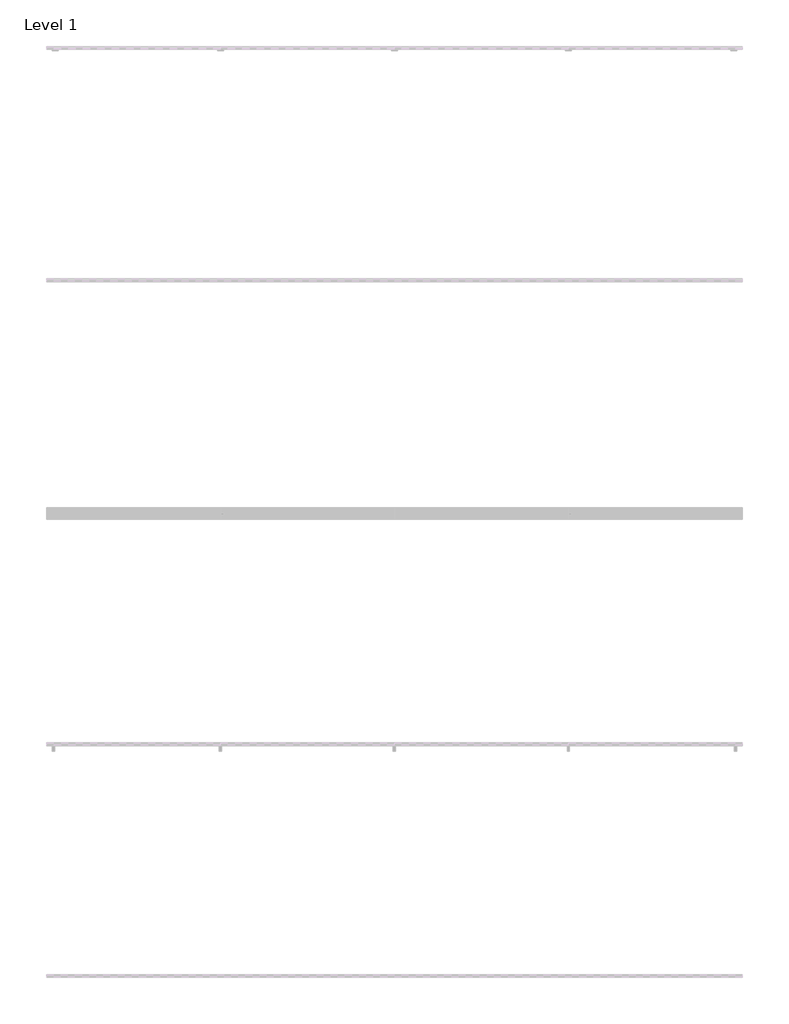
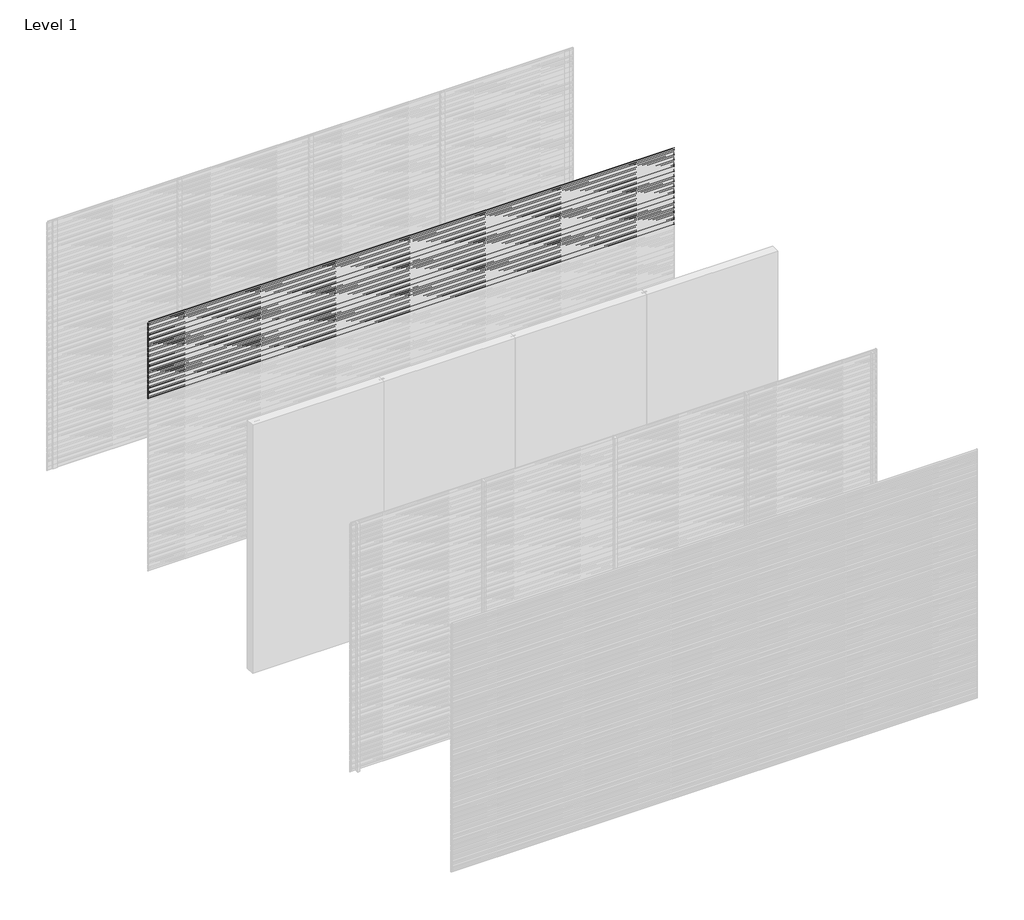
# One storey, part 24 of 31: 99 proxies.
"""IFC4 building model written with IfcOpenShell, lengths in millimetres."""

from ifc_helpers import new_model, si_unit, frame, origin, place, context, project, spatial, polyline, outline, extrude, element, save

model = new_model("IFC4")

# Units and contexts
model_context = context("Model", 3, world=origin())
ifc_project = project(units=[si_unit("LENGTHUNIT", "METRE", prefix="MILLI")], contexts=[model_context])

# Site, building, storey
site = spatial("IfcSite", under=ifc_project)
building = spatial("IfcBuilding", under=site)
storey = spatial("IfcBuildingStorey", under=building, Name="Level 1", Elevation=0.0)

# Proxies
placement = place(None, origin())
element("IfcBuildingElementProxy", 1, Name="Wall Sweeps", at=placement, inside=storey, context=model_context, shape_type="SweptSolid", body=[
    extrude(outline(polyline([(-1995.0, 3000.0), (-1995.0, 2988.942893), (-1976.0, 2973.0), (-1976.0, 2960.0), (-1997.0, 2977.6210923), (-1997.0, 3000.0), (-1995.0, 3000.0)])), frame((0.0, 0.0, 0.0), z_axis=(1.0, 0.0, 0.0), x_axis=(0.0, 1.0, 0.0)), (0.0, 0.0, 1.0), 6000.0),
])
element("IfcBuildingElementProxy", 2, Name="Wall Sweeps", at=placement, inside=storey, context=model_context, shape_type="SweptSolid", body=[
    extrude(outline(polyline([(-1995.0, 2980.0), (-1995.0, 2968.942893), (-1976.0, 2953.0), (-1976.0, 2940.0), (-1997.0, 2957.6210923), (-1997.0, 2980.0), (-1995.0, 2980.0)])), frame((0.0, 0.0, 0.0), z_axis=(1.0, 0.0, 0.0), x_axis=(0.0, 1.0, 0.0)), (0.0, 0.0, 1.0), 6000.0),
])
element("IfcBuildingElementProxy", 3, Name="Wall Sweeps", at=placement, inside=storey, context=model_context, shape_type="SweptSolid", body=[
    extrude(outline(polyline([(-1995.0, 2960.0), (-1995.0, 2948.942893), (-1976.0, 2933.0), (-1976.0, 2920.0), (-1997.0, 2937.6210923), (-1997.0, 2960.0), (-1995.0, 2960.0)])), frame((0.0, 0.0, 0.0), z_axis=(1.0, 0.0, 0.0), x_axis=(0.0, 1.0, 0.0)), (0.0, 0.0, 1.0), 6000.0),
])
element("IfcBuildingElementProxy", 4, Name="Wall Sweeps", at=placement, inside=storey, context=model_context, shape_type="SweptSolid", body=[
    extrude(outline(polyline([(-1995.0, 2940.0), (-1995.0, 2928.942893), (-1976.0, 2913.0), (-1976.0, 2900.0), (-1997.0, 2917.6210923), (-1997.0, 2940.0), (-1995.0, 2940.0)])), frame((0.0, 0.0, 0.0), z_axis=(1.0, 0.0, 0.0), x_axis=(0.0, 1.0, 0.0)), (0.0, 0.0, 1.0), 6000.0),
])
element("IfcBuildingElementProxy", 5, Name="Wall Sweeps", at=placement, inside=storey, context=model_context, shape_type="SweptSolid", body=[
    extrude(outline(polyline([(-1995.0, 2920.0), (-1995.0, 2908.942893), (-1976.0, 2893.0), (-1976.0, 2880.0), (-1997.0, 2897.6210923), (-1997.0, 2920.0), (-1995.0, 2920.0)])), frame((0.0, 0.0, 0.0), z_axis=(1.0, 0.0, 0.0), x_axis=(0.0, 1.0, 0.0)), (0.0, 0.0, 1.0), 6000.0),
])
element("IfcBuildingElementProxy", 6, Name="Wall Sweeps", at=placement, inside=storey, context=model_context, shape_type="SweptSolid", body=[
    extrude(outline(polyline([(-1995.0, 2900.0), (-1995.0, 2888.942893), (-1976.0, 2873.0), (-1976.0, 2860.0), (-1997.0, 2877.6210923), (-1997.0, 2900.0), (-1995.0, 2900.0)])), frame((0.0, 0.0, 0.0), z_axis=(1.0, 0.0, 0.0), x_axis=(0.0, 1.0, 0.0)), (0.0, 0.0, 1.0), 6000.0),
])
element("IfcBuildingElementProxy", 7, Name="Wall Sweeps", at=placement, inside=storey, context=model_context, shape_type="SweptSolid", body=[
    extrude(outline(polyline([(-1995.0, 2880.0), (-1995.0, 2868.942893), (-1976.0, 2853.0), (-1976.0, 2840.0), (-1997.0, 2857.6210923), (-1997.0, 2880.0), (-1995.0, 2880.0)])), frame((0.0, 0.0, 0.0), z_axis=(1.0, 0.0, 0.0), x_axis=(0.0, 1.0, 0.0)), (0.0, 0.0, 1.0), 6000.0),
])
element("IfcBuildingElementProxy", 8, Name="Wall Sweeps", at=placement, inside=storey, context=model_context, shape_type="SweptSolid", body=[
    extrude(outline(polyline([(-1995.0, 2860.0), (-1995.0, 2848.942893), (-1976.0, 2833.0), (-1976.0, 2820.0), (-1997.0, 2837.6210923), (-1997.0, 2860.0), (-1995.0, 2860.0)])), frame((0.0, 0.0, 0.0), z_axis=(1.0, 0.0, 0.0), x_axis=(0.0, 1.0, 0.0)), (0.0, 0.0, 1.0), 6000.0),
])
element("IfcBuildingElementProxy", 9, Name="Wall Sweeps", at=placement, inside=storey, context=model_context, shape_type="SweptSolid", body=[
    extrude(outline(polyline([(-1995.0, 2840.0), (-1995.0, 2828.942893), (-1976.0, 2813.0), (-1976.0, 2800.0), (-1997.0, 2817.6210923), (-1997.0, 2840.0), (-1995.0, 2840.0)])), frame((0.0, 0.0, 0.0), z_axis=(1.0, 0.0, 0.0), x_axis=(0.0, 1.0, 0.0)), (0.0, 0.0, 1.0), 6000.0),
])
element("IfcBuildingElementProxy", 10, Name="Wall Sweeps", at=placement, inside=storey, context=model_context, shape_type="SweptSolid", body=[
    extrude(outline(polyline([(-1995.0, 2820.0), (-1995.0, 2808.942893), (-1976.0, 2793.0), (-1976.0, 2780.0), (-1997.0, 2797.6210923), (-1997.0, 2820.0), (-1995.0, 2820.0)])), frame((0.0, 0.0, 0.0), z_axis=(1.0, 0.0, 0.0), x_axis=(0.0, 1.0, 0.0)), (0.0, 0.0, 1.0), 6000.0),
])
element("IfcBuildingElementProxy", 11, Name="Wall Sweeps", at=placement, inside=storey, context=model_context, shape_type="SweptSolid", body=[
    extrude(outline(polyline([(-1995.0, 2800.0), (-1995.0, 2788.942893), (-1976.0, 2773.0), (-1976.0, 2760.0), (-1997.0, 2777.6210923), (-1997.0, 2800.0), (-1995.0, 2800.0)])), frame((0.0, 0.0, 0.0), z_axis=(1.0, 0.0, 0.0), x_axis=(0.0, 1.0, 0.0)), (0.0, 0.0, 1.0), 6000.0),
])
element("IfcBuildingElementProxy", 12, Name="Wall Sweeps", at=placement, inside=storey, context=model_context, shape_type="SweptSolid", body=[
    extrude(outline(polyline([(-1995.0, 2780.0), (-1995.0, 2768.942893), (-1976.0, 2753.0), (-1976.0, 2740.0), (-1997.0, 2757.6210923), (-1997.0, 2780.0), (-1995.0, 2780.0)])), frame((0.0, 0.0, 0.0), z_axis=(1.0, 0.0, 0.0), x_axis=(0.0, 1.0, 0.0)), (0.0, 0.0, 1.0), 6000.0),
])
element("IfcBuildingElementProxy", 13, Name="Wall Sweeps", at=placement, inside=storey, context=model_context, shape_type="SweptSolid", body=[
    extrude(outline(polyline([(-1995.0, 2760.0), (-1995.0, 2748.942893), (-1976.0, 2733.0), (-1976.0, 2720.0), (-1997.0, 2737.6210923), (-1997.0, 2760.0), (-1995.0, 2760.0)])), frame((0.0, 0.0, 0.0), z_axis=(1.0, 0.0, 0.0), x_axis=(0.0, 1.0, 0.0)), (0.0, 0.0, 1.0), 6000.0),
])
element("IfcBuildingElementProxy", 14, Name="Wall Sweeps", at=placement, inside=storey, context=model_context, shape_type="SweptSolid", body=[
    extrude(outline(polyline([(-1995.0, 2740.0), (-1995.0, 2728.942893), (-1976.0, 2713.0), (-1976.0, 2700.0), (-1997.0, 2717.6210923), (-1997.0, 2740.0), (-1995.0, 2740.0)])), frame((0.0, 0.0, 0.0), z_axis=(1.0, 0.0, 0.0), x_axis=(0.0, 1.0, 0.0)), (0.0, 0.0, 1.0), 6000.0),
])
element("IfcBuildingElementProxy", 15, Name="Wall Sweeps", at=placement, inside=storey, context=model_context, shape_type="SweptSolid", body=[
    extrude(outline(polyline([(-1995.0, 2720.0), (-1995.0, 2708.942893), (-1976.0, 2693.0), (-1976.0, 2680.0), (-1997.0, 2697.6210923), (-1997.0, 2720.0), (-1995.0, 2720.0)])), frame((0.0, 0.0, 0.0), z_axis=(1.0, 0.0, 0.0), x_axis=(0.0, 1.0, 0.0)), (0.0, 0.0, 1.0), 6000.0),
])
element("IfcBuildingElementProxy", 16, Name="Wall Sweeps", at=placement, inside=storey, context=model_context, shape_type="SweptSolid", body=[
    extrude(outline(polyline([(-1995.0, 2700.0), (-1995.0, 2688.942893), (-1976.0, 2673.0), (-1976.0, 2660.0), (-1997.0, 2677.6210923), (-1997.0, 2700.0), (-1995.0, 2700.0)])), frame((0.0, 0.0, 0.0), z_axis=(1.0, 0.0, 0.0), x_axis=(0.0, 1.0, 0.0)), (0.0, 0.0, 1.0), 6000.0),
])
element("IfcBuildingElementProxy", 17, Name="Wall Sweeps", at=placement, inside=storey, context=model_context, shape_type="SweptSolid", body=[
    extrude(outline(polyline([(-1995.0, 2680.0), (-1995.0, 2668.942893), (-1976.0, 2653.0), (-1976.0, 2640.0), (-1997.0, 2657.6210923), (-1997.0, 2680.0), (-1995.0, 2680.0)])), frame((0.0, 0.0, 0.0), z_axis=(1.0, 0.0, 0.0), x_axis=(0.0, 1.0, 0.0)), (0.0, 0.0, 1.0), 6000.0),
])
element("IfcBuildingElementProxy", 18, Name="Wall Sweeps", at=placement, inside=storey, context=model_context, shape_type="SweptSolid", body=[
    extrude(outline(polyline([(-1995.0, 2660.0), (-1995.0, 2648.942893), (-1976.0, 2633.0), (-1976.0, 2620.0), (-1997.0, 2637.6210923), (-1997.0, 2660.0), (-1995.0, 2660.0)])), frame((0.0, 0.0, 0.0), z_axis=(1.0, 0.0, 0.0), x_axis=(0.0, 1.0, 0.0)), (0.0, 0.0, 1.0), 6000.0),
])
element("IfcBuildingElementProxy", 19, Name="Wall Sweeps", at=placement, inside=storey, context=model_context, shape_type="SweptSolid", body=[
    extrude(outline(polyline([(-1995.0, 2640.0), (-1995.0, 2628.942893), (-1976.0, 2613.0), (-1976.0, 2600.0), (-1997.0, 2617.6210923), (-1997.0, 2640.0), (-1995.0, 2640.0)])), frame((0.0, 0.0, 0.0), z_axis=(1.0, 0.0, 0.0), x_axis=(0.0, 1.0, 0.0)), (0.0, 0.0, 1.0), 6000.0),
])
element("IfcBuildingElementProxy", 20, Name="Wall Sweeps", at=placement, inside=storey, context=model_context, shape_type="SweptSolid", body=[
    extrude(outline(polyline([(-1995.0, 2620.0), (-1995.0, 2608.942893), (-1976.0, 2593.0), (-1976.0, 2580.0), (-1997.0, 2597.6210923), (-1997.0, 2620.0), (-1995.0, 2620.0)])), frame((0.0, 0.0, 0.0), z_axis=(1.0, 0.0, 0.0), x_axis=(0.0, 1.0, 0.0)), (0.0, 0.0, 1.0), 6000.0),
])
element("IfcBuildingElementProxy", 21, Name="Wall Sweeps", at=placement, inside=storey, context=model_context, shape_type="SweptSolid", body=[
    extrude(outline(polyline([(-1995.0, 2600.0), (-1995.0, 2588.942893), (-1976.0, 2573.0), (-1976.0, 2560.0), (-1997.0, 2577.6210923), (-1997.0, 2600.0), (-1995.0, 2600.0)])), frame((0.0, 0.0, 0.0), z_axis=(1.0, 0.0, 0.0), x_axis=(0.0, 1.0, 0.0)), (0.0, 0.0, 1.0), 6000.0),
])
element("IfcBuildingElementProxy", 22, Name="Wall Sweeps", at=placement, inside=storey, context=model_context, shape_type="SweptSolid", body=[
    extrude(outline(polyline([(-1995.0, 2580.0), (-1995.0, 2568.942893), (-1976.0, 2553.0), (-1976.0, 2540.0), (-1997.0, 2557.6210923), (-1997.0, 2580.0), (-1995.0, 2580.0)])), frame((0.0, 0.0, 0.0), z_axis=(1.0, 0.0, 0.0), x_axis=(0.0, 1.0, 0.0)), (0.0, 0.0, 1.0), 6000.0),
])
element("IfcBuildingElementProxy", 23, Name="Wall Sweeps", at=placement, inside=storey, context=model_context, shape_type="SweptSolid", body=[
    extrude(outline(polyline([(-1995.0, 2560.0), (-1995.0, 2548.942893), (-1976.0, 2533.0), (-1976.0, 2520.0), (-1997.0, 2537.6210923), (-1997.0, 2560.0), (-1995.0, 2560.0)])), frame((0.0, 0.0, 0.0), z_axis=(1.0, 0.0, 0.0), x_axis=(0.0, 1.0, 0.0)), (0.0, 0.0, 1.0), 6000.0),
])
element("IfcBuildingElementProxy", 24, Name="Wall Sweeps", at=placement, inside=storey, context=model_context, shape_type="SweptSolid", body=[
    extrude(outline(polyline([(-1995.0, 2540.0), (-1995.0, 2528.942893), (-1976.0, 2513.0), (-1976.0, 2500.0), (-1997.0, 2517.6210923), (-1997.0, 2540.0), (-1995.0, 2540.0)])), frame((0.0, 0.0, 0.0), z_axis=(1.0, 0.0, 0.0), x_axis=(0.0, 1.0, 0.0)), (0.0, 0.0, 1.0), 6000.0),
])
element("IfcBuildingElementProxy", 25, Name="Wall Sweeps", at=placement, inside=storey, context=model_context, shape_type="SweptSolid", body=[
    extrude(outline(polyline([(-1995.0, 2520.0), (-1995.0, 2508.942893), (-1976.0, 2493.0), (-1976.0, 2480.0), (-1997.0, 2497.6210923), (-1997.0, 2520.0), (-1995.0, 2520.0)])), frame((0.0, 0.0, 0.0), z_axis=(1.0, 0.0, 0.0), x_axis=(0.0, 1.0, 0.0)), (0.0, 0.0, 1.0), 6000.0),
])
element("IfcBuildingElementProxy", 26, Name="Wall Sweeps", at=placement, inside=storey, context=model_context, shape_type="SweptSolid", body=[
    extrude(outline(polyline([(-1995.0, 2500.0), (-1995.0, 2488.942893), (-1976.0, 2473.0), (-1976.0, 2460.0), (-1997.0, 2477.6210923), (-1997.0, 2500.0), (-1995.0, 2500.0)])), frame((0.0, 0.0, 0.0), z_axis=(1.0, 0.0, 0.0), x_axis=(0.0, 1.0, 0.0)), (0.0, 0.0, 1.0), 6000.0),
])
element("IfcBuildingElementProxy", 27, Name="Wall Sweeps", at=placement, inside=storey, context=model_context, shape_type="SweptSolid", body=[
    extrude(outline(polyline([(-1995.0, 2480.0), (-1995.0, 2468.942893), (-1976.0, 2453.0), (-1976.0, 2440.0), (-1997.0, 2457.6210923), (-1997.0, 2480.0), (-1995.0, 2480.0)])), frame((0.0, 0.0, 0.0), z_axis=(1.0, 0.0, 0.0), x_axis=(0.0, 1.0, 0.0)), (0.0, 0.0, 1.0), 6000.0),
])
element("IfcBuildingElementProxy", 28, Name="Wall Sweeps", at=placement, inside=storey, context=model_context, shape_type="SweptSolid", body=[
    extrude(outline(polyline([(-1995.0, 2460.0), (-1995.0, 2448.942893), (-1976.0, 2433.0), (-1976.0, 2420.0), (-1997.0, 2437.6210923), (-1997.0, 2460.0), (-1995.0, 2460.0)])), frame((0.0, 0.0, 0.0), z_axis=(1.0, 0.0, 0.0), x_axis=(0.0, 1.0, 0.0)), (0.0, 0.0, 1.0), 6000.0),
])
element("IfcBuildingElementProxy", 29, Name="Wall Sweeps", at=placement, inside=storey, context=model_context, shape_type="SweptSolid", body=[
    extrude(outline(polyline([(-1995.0, 2440.0), (-1995.0, 2428.942893), (-1976.0, 2413.0), (-1976.0, 2400.0), (-1997.0, 2417.6210923), (-1997.0, 2440.0), (-1995.0, 2440.0)])), frame((0.0, 0.0, 0.0), z_axis=(1.0, 0.0, 0.0), x_axis=(0.0, 1.0, 0.0)), (0.0, 0.0, 1.0), 6000.0),
])
element("IfcBuildingElementProxy", 30, Name="Wall Sweeps", at=placement, inside=storey, context=model_context, shape_type="SweptSolid", body=[
    extrude(outline(polyline([(-1995.0, 2420.0), (-1995.0, 2408.942893), (-1976.0, 2393.0), (-1976.0, 2380.0), (-1997.0, 2397.6210923), (-1997.0, 2420.0), (-1995.0, 2420.0)])), frame((0.0, 0.0, 0.0), z_axis=(1.0, 0.0, 0.0), x_axis=(0.0, 1.0, 0.0)), (0.0, 0.0, 1.0), 6000.0),
])
element("IfcBuildingElementProxy", 31, Name="Wall Sweeps", at=placement, inside=storey, context=model_context, shape_type="SweptSolid", body=[
    extrude(outline(polyline([(-1995.0, 2400.0), (-1995.0, 2388.942893), (-1976.0, 2373.0), (-1976.0, 2360.0), (-1997.0, 2377.6210923), (-1997.0, 2400.0), (-1995.0, 2400.0)])), frame((0.0, 0.0, 0.0), z_axis=(1.0, 0.0, 0.0), x_axis=(0.0, 1.0, 0.0)), (0.0, 0.0, 1.0), 6000.0),
])
element("IfcBuildingElementProxy", 32, Name="Wall Sweeps", at=placement, inside=storey, context=model_context, shape_type="SweptSolid", body=[
    extrude(outline(polyline([(-1995.0, 2380.0), (-1995.0, 2368.942893), (-1976.0, 2353.0), (-1976.0, 2340.0), (-1997.0, 2357.6210923), (-1997.0, 2380.0), (-1995.0, 2380.0)])), frame((0.0, 0.0, 0.0), z_axis=(1.0, 0.0, 0.0), x_axis=(0.0, 1.0, 0.0)), (0.0, 0.0, 1.0), 6000.0),
])
element("IfcBuildingElementProxy", 33, Name="Wall Sweeps", at=placement, inside=storey, context=model_context, shape_type="SweptSolid", body=[
    extrude(outline(polyline([(-1995.0, 2360.0), (-1995.0, 2348.942893), (-1976.0, 2333.0), (-1976.0, 2320.0), (-1997.0, 2337.6210923), (-1997.0, 2360.0), (-1995.0, 2360.0)])), frame((0.0, 0.0, 0.0), z_axis=(1.0, 0.0, 0.0), x_axis=(0.0, 1.0, 0.0)), (0.0, 0.0, 1.0), 6000.0),
])
element("IfcBuildingElementProxy", 34, Name="Wall Sweeps", at=placement, inside=storey, context=model_context, shape_type="SweptSolid", body=[
    extrude(outline(polyline([(-1995.0, 2340.0), (-1995.0, 2328.942893), (-1976.0, 2313.0), (-1976.0, 2300.0), (-1997.0, 2317.6210923), (-1997.0, 2340.0), (-1995.0, 2340.0)])), frame((0.0, 0.0, 0.0), z_axis=(1.0, 0.0, 0.0), x_axis=(0.0, 1.0, 0.0)), (0.0, 0.0, 1.0), 6000.0),
])
element("IfcBuildingElementProxy", 35, Name="Wall Sweeps", at=placement, inside=storey, context=model_context, shape_type="SweptSolid", body=[
    extrude(outline(polyline([(-1995.0, 2320.0), (-1995.0, 2308.942893), (-1976.0, 2293.0), (-1976.0, 2280.0), (-1997.0, 2297.6210923), (-1997.0, 2320.0), (-1995.0, 2320.0)])), frame((0.0, 0.0, 0.0), z_axis=(1.0, 0.0, 0.0), x_axis=(0.0, 1.0, 0.0)), (0.0, 0.0, 1.0), 6000.0),
])
element("IfcBuildingElementProxy", 36, Name="Wall Sweeps", at=placement, inside=storey, context=model_context, shape_type="SweptSolid", body=[
    extrude(outline(polyline([(-1995.0, 2300.0), (-1995.0, 2288.942893), (-1976.0, 2273.0), (-1976.0, 2260.0), (-1997.0, 2277.6210923), (-1997.0, 2300.0), (-1995.0, 2300.0)])), frame((0.0, 0.0, 0.0), z_axis=(1.0, 0.0, 0.0), x_axis=(0.0, 1.0, 0.0)), (0.0, 0.0, 1.0), 6000.0),
])
element("IfcBuildingElementProxy", 37, Name="Wall Sweeps", at=placement, inside=storey, context=model_context, shape_type="SweptSolid", body=[
    extrude(outline(polyline([(-1995.0, 2280.0), (-1995.0, 2268.942893), (-1976.0, 2253.0), (-1976.0, 2240.0), (-1997.0, 2257.6210923), (-1997.0, 2280.0), (-1995.0, 2280.0)])), frame((0.0, 0.0, 0.0), z_axis=(1.0, 0.0, 0.0), x_axis=(0.0, 1.0, 0.0)), (0.0, 0.0, 1.0), 6000.0),
])
element("IfcBuildingElementProxy", 38, Name="Wall Sweeps", at=placement, inside=storey, context=model_context, shape_type="SweptSolid", body=[
    extrude(outline(polyline([(-1995.0, 2260.0), (-1995.0, 2248.942893), (-1976.0, 2233.0), (-1976.0, 2220.0), (-1997.0, 2237.6210923), (-1997.0, 2260.0), (-1995.0, 2260.0)])), frame((0.0, 0.0, 0.0), z_axis=(1.0, 0.0, 0.0), x_axis=(0.0, 1.0, 0.0)), (0.0, 0.0, 1.0), 6000.0),
])
element("IfcBuildingElementProxy", 39, Name="Wall Sweeps", at=placement, inside=storey, context=model_context, shape_type="SweptSolid", body=[
    extrude(outline(polyline([(-1995.0, 2240.0), (-1995.0, 2228.942893), (-1976.0, 2213.0), (-1976.0, 2200.0), (-1997.0, 2217.6210923), (-1997.0, 2240.0), (-1995.0, 2240.0)])), frame((0.0, 0.0, 0.0), z_axis=(1.0, 0.0, 0.0), x_axis=(0.0, 1.0, 0.0)), (0.0, 0.0, 1.0), 6000.0),
])
element("IfcBuildingElementProxy", 40, Name="Wall Sweeps", at=placement, inside=storey, context=model_context, shape_type="SweptSolid", body=[
    extrude(outline(polyline([(-1995.0, 2220.0), (-1995.0, 2208.942893), (-1976.0, 2193.0), (-1976.0, 2180.0), (-1997.0, 2197.6210923), (-1997.0, 2220.0), (-1995.0, 2220.0)])), frame((0.0, 0.0, 0.0), z_axis=(1.0, 0.0, 0.0), x_axis=(0.0, 1.0, 0.0)), (0.0, 0.0, 1.0), 6000.0),
])
element("IfcBuildingElementProxy", 41, Name="Wall Sweeps", at=placement, inside=storey, context=model_context, shape_type="SweptSolid", body=[
    extrude(outline(polyline([(-1995.0, 2200.0), (-1995.0, 2188.942893), (-1976.0, 2173.0), (-1976.0, 2160.0), (-1997.0, 2177.6210923), (-1997.0, 2200.0), (-1995.0, 2200.0)])), frame((0.0, 0.0, 0.0), z_axis=(1.0, 0.0, 0.0), x_axis=(0.0, 1.0, 0.0)), (0.0, 0.0, 1.0), 6000.0),
])
element("IfcBuildingElementProxy", 42, Name="Wall Sweeps", at=placement, inside=storey, context=model_context, shape_type="SweptSolid", body=[
    extrude(outline(polyline([(-1995.0, 2180.0), (-1995.0, 2168.942893), (-1976.0, 2153.0), (-1976.0, 2140.0), (-1997.0, 2157.6210923), (-1997.0, 2180.0), (-1995.0, 2180.0)])), frame((0.0, 0.0, 0.0), z_axis=(1.0, 0.0, 0.0), x_axis=(0.0, 1.0, 0.0)), (0.0, 0.0, 1.0), 6000.0),
])
element("IfcBuildingElementProxy", 43, Name="Wall Sweeps", at=placement, inside=storey, context=model_context, shape_type="SweptSolid", body=[
    extrude(outline(polyline([(-1995.0, 2160.0), (-1995.0, 2148.942893), (-1976.0, 2133.0), (-1976.0, 2120.0), (-1997.0, 2137.6210923), (-1997.0, 2160.0), (-1995.0, 2160.0)])), frame((0.0, 0.0, 0.0), z_axis=(1.0, 0.0, 0.0), x_axis=(0.0, 1.0, 0.0)), (0.0, 0.0, 1.0), 6000.0),
])
element("IfcBuildingElementProxy", 44, Name="Wall Sweeps", at=placement, inside=storey, context=model_context, shape_type="SweptSolid", body=[
    extrude(outline(polyline([(-1995.0, 2140.0), (-1995.0, 2128.942893), (-1976.0, 2113.0), (-1976.0, 2100.0), (-1997.0, 2117.6210923), (-1997.0, 2140.0), (-1995.0, 2140.0)])), frame((0.0, 0.0, 0.0), z_axis=(1.0, 0.0, 0.0), x_axis=(0.0, 1.0, 0.0)), (0.0, 0.0, 1.0), 6000.0),
])
element("IfcBuildingElementProxy", 45, Name="Wall Sweeps", at=placement, inside=storey, context=model_context, shape_type="SweptSolid", body=[
    extrude(outline(polyline([(-1995.0, 2120.0), (-1995.0, 2108.942893), (-1976.0, 2093.0), (-1976.0, 2080.0), (-1997.0, 2097.6210923), (-1997.0, 2120.0), (-1995.0, 2120.0)])), frame((0.0, 0.0, 0.0), z_axis=(1.0, 0.0, 0.0), x_axis=(0.0, 1.0, 0.0)), (0.0, 0.0, 1.0), 6000.0),
])
element("IfcBuildingElementProxy", 46, Name="Wall Sweeps", at=placement, inside=storey, context=model_context, shape_type="SweptSolid", body=[
    extrude(outline(polyline([(-1995.0, 2100.0), (-1995.0, 2088.942893), (-1976.0, 2073.0), (-1976.0, 2060.0), (-1997.0, 2077.6210923), (-1997.0, 2100.0), (-1995.0, 2100.0)])), frame((0.0, 0.0, 0.0), z_axis=(1.0, 0.0, 0.0), x_axis=(0.0, 1.0, 0.0)), (0.0, 0.0, 1.0), 6000.0),
])
element("IfcBuildingElementProxy", 47, Name="Wall Sweeps", at=placement, inside=storey, context=model_context, shape_type="SweptSolid", body=[
    extrude(outline(polyline([(-5995.0, 1060.0), (-5995.0, 1048.942893), (-5976.0, 1033.0), (-5976.0, 1020.0), (-5997.0, 1037.6210923), (-5997.0, 1060.0), (-5995.0, 1060.0)])), frame((4500.0, 0.0, 0.0), z_axis=(1.0, 0.0, 0.0), x_axis=(0.0, 1.0, 0.0)), (0.0, 0.0, 1.0), 1500.0),
])
element("IfcBuildingElementProxy", 48, Name="Wall Sweeps", at=placement, inside=storey, context=model_context, shape_type="SweptSolid", body=[
    extrude(outline(polyline([(-5995.0, 1040.0), (-5995.0, 1028.942893), (-5976.0, 1013.0), (-5976.0, 1000.0), (-5997.0, 1017.6210923), (-5997.0, 1040.0), (-5995.0, 1040.0)])), frame((4500.0, 0.0, 0.0), z_axis=(1.0, 0.0, 0.0), x_axis=(0.0, 1.0, 0.0)), (0.0, 0.0, 1.0), 1500.0),
])
element("IfcBuildingElementProxy", 49, Name="Wall Sweeps", at=placement, inside=storey, context=model_context, shape_type="SweptSolid", body=[
    extrude(outline(polyline([(-5995.0, 1020.0), (-5995.0, 1008.942893), (-5976.0, 993.0), (-5976.0, 980.0), (-5997.0, 997.6210923), (-5997.0, 1020.0), (-5995.0, 1020.0)])), frame((4500.0, 0.0, 0.0), z_axis=(1.0, 0.0, 0.0), x_axis=(0.0, 1.0, 0.0)), (0.0, 0.0, 1.0), 1500.0),
])
element("IfcBuildingElementProxy", 50, Name="Wall Sweeps", at=placement, inside=storey, context=model_context, shape_type="SweptSolid", body=[
    extrude(outline(polyline([(-5995.0, 1000.0), (-5995.0, 988.942893), (-5976.0, 973.0), (-5976.0, 960.0), (-5997.0, 977.6210923), (-5997.0, 1000.0), (-5995.0, 1000.0)])), frame((4500.0, 0.0, 0.0), z_axis=(1.0, 0.0, 0.0), x_axis=(0.0, 1.0, 0.0)), (0.0, 0.0, 1.0), 1500.0),
])
element("IfcBuildingElementProxy", 51, Name="Wall Sweeps", at=placement, inside=storey, context=model_context, shape_type="SweptSolid", body=[
    extrude(outline(polyline([(-5995.0, 980.0), (-5995.0, 968.942893), (-5976.0, 953.0), (-5976.0, 940.0), (-5997.0, 957.6210923), (-5997.0, 980.0), (-5995.0, 980.0)])), frame((4500.0, 0.0, 0.0), z_axis=(1.0, 0.0, 0.0), x_axis=(0.0, 1.0, 0.0)), (0.0, 0.0, 1.0), 1500.0),
])
element("IfcBuildingElementProxy", 52, Name="Wall Sweeps", at=placement, inside=storey, context=model_context, shape_type="SweptSolid", body=[
    extrude(outline(polyline([(-5995.0, 960.0), (-5995.0, 948.942893), (-5976.0, 933.0), (-5976.0, 920.0), (-5997.0, 937.6210923), (-5997.0, 960.0), (-5995.0, 960.0)])), frame((4500.0, 0.0, 0.0), z_axis=(1.0, 0.0, 0.0), x_axis=(0.0, 1.0, 0.0)), (0.0, 0.0, 1.0), 1500.0),
])
element("IfcBuildingElementProxy", 53, Name="Wall Sweeps", at=placement, inside=storey, context=model_context, shape_type="SweptSolid", body=[
    extrude(outline(polyline([(-5995.0, 940.0), (-5995.0, 928.942893), (-5976.0, 913.0), (-5976.0, 900.0), (-5997.0, 917.6210923), (-5997.0, 940.0), (-5995.0, 940.0)])), frame((4500.0, 0.0, 0.0), z_axis=(1.0, 0.0, 0.0), x_axis=(0.0, 1.0, 0.0)), (0.0, 0.0, 1.0), 1500.0),
])
element("IfcBuildingElementProxy", 54, Name="Wall Sweeps", at=placement, inside=storey, context=model_context, shape_type="SweptSolid", body=[
    extrude(outline(polyline([(-5995.0, 920.0), (-5995.0, 908.942893), (-5976.0, 893.0), (-5976.0, 880.0), (-5997.0, 897.6210923), (-5997.0, 920.0), (-5995.0, 920.0)])), frame((4500.0, 0.0, 0.0), z_axis=(1.0, 0.0, 0.0), x_axis=(0.0, 1.0, 0.0)), (0.0, 0.0, 1.0), 1500.0),
])
element("IfcBuildingElementProxy", 55, Name="Wall Sweeps", at=placement, inside=storey, context=model_context, shape_type="SweptSolid", body=[
    extrude(outline(polyline([(-5995.0, 900.0), (-5995.0, 888.942893), (-5976.0, 873.0), (-5976.0, 860.0), (-5997.0, 877.6210923), (-5997.0, 900.0), (-5995.0, 900.0)])), frame((4500.0, 0.0, 0.0), z_axis=(1.0, 0.0, 0.0), x_axis=(0.0, 1.0, 0.0)), (0.0, 0.0, 1.0), 1500.0),
])
element("IfcBuildingElementProxy", 56, Name="Wall Sweeps", at=placement, inside=storey, context=model_context, shape_type="SweptSolid", body=[
    extrude(outline(polyline([(-5995.0, 880.0), (-5995.0, 868.942893), (-5976.0, 853.0), (-5976.0, 840.0), (-5997.0, 857.6210923), (-5997.0, 880.0), (-5995.0, 880.0)])), frame((4500.0, 0.0, 0.0), z_axis=(1.0, 0.0, 0.0), x_axis=(0.0, 1.0, 0.0)), (0.0, 0.0, 1.0), 1500.0),
])
element("IfcBuildingElementProxy", 57, Name="Wall Sweeps", at=placement, inside=storey, context=model_context, shape_type="SweptSolid", body=[
    extrude(outline(polyline([(-5995.0, 860.0), (-5995.0, 848.942893), (-5976.0, 833.0), (-5976.0, 820.0), (-5997.0, 837.6210923), (-5997.0, 860.0), (-5995.0, 860.0)])), frame((4500.0, 0.0, 0.0), z_axis=(1.0, 0.0, 0.0), x_axis=(0.0, 1.0, 0.0)), (0.0, 0.0, 1.0), 1500.0),
])
element("IfcBuildingElementProxy", 58, Name="Wall Sweeps", at=placement, inside=storey, context=model_context, shape_type="SweptSolid", body=[
    extrude(outline(polyline([(-5995.0, 840.0), (-5995.0, 828.942893), (-5976.0, 813.0), (-5976.0, 800.0), (-5997.0, 817.6210923), (-5997.0, 840.0), (-5995.0, 840.0)])), frame((4500.0, 0.0, 0.0), z_axis=(1.0, 0.0, 0.0), x_axis=(0.0, 1.0, 0.0)), (0.0, 0.0, 1.0), 1500.0),
])
element("IfcBuildingElementProxy", 59, Name="Wall Sweeps", at=placement, inside=storey, context=model_context, shape_type="SweptSolid", body=[
    extrude(outline(polyline([(-5995.0, 820.0), (-5995.0, 808.942893), (-5976.0, 793.0), (-5976.0, 780.0), (-5997.0, 797.6210923), (-5997.0, 820.0), (-5995.0, 820.0)])), frame((4500.0, 0.0, 0.0), z_axis=(1.0, 0.0, 0.0), x_axis=(0.0, 1.0, 0.0)), (0.0, 0.0, 1.0), 1500.0),
])
element("IfcBuildingElementProxy", 60, Name="Wall Sweeps", at=placement, inside=storey, context=model_context, shape_type="SweptSolid", body=[
    extrude(outline(polyline([(-5995.0, 800.0), (-5995.0, 788.942893), (-5976.0, 773.0), (-5976.0, 760.0), (-5997.0, 777.6210923), (-5997.0, 800.0), (-5995.0, 800.0)])), frame((4500.0, 0.0, 0.0), z_axis=(1.0, 0.0, 0.0), x_axis=(0.0, 1.0, 0.0)), (0.0, 0.0, 1.0), 1500.0),
])
element("IfcBuildingElementProxy", 61, Name="Wall Sweeps", at=placement, inside=storey, context=model_context, shape_type="SweptSolid", body=[
    extrude(outline(polyline([(-5995.0, 780.0), (-5995.0, 768.942893), (-5976.0, 753.0), (-5976.0, 740.0), (-5997.0, 757.6210923), (-5997.0, 780.0), (-5995.0, 780.0)])), frame((4500.0, 0.0, 0.0), z_axis=(1.0, 0.0, 0.0), x_axis=(0.0, 1.0, 0.0)), (0.0, 0.0, 1.0), 1500.0),
])
element("IfcBuildingElementProxy", 62, Name="Wall Sweeps", at=placement, inside=storey, context=model_context, shape_type="SweptSolid", body=[
    extrude(outline(polyline([(-5995.0, 760.0), (-5995.0, 748.942893), (-5976.0, 733.0), (-5976.0, 720.0), (-5997.0, 737.6210923), (-5997.0, 760.0), (-5995.0, 760.0)])), frame((4500.0, 0.0, 0.0), z_axis=(1.0, 0.0, 0.0), x_axis=(0.0, 1.0, 0.0)), (0.0, 0.0, 1.0), 1500.0),
])
element("IfcBuildingElementProxy", 63, Name="Wall Sweeps", at=placement, inside=storey, context=model_context, shape_type="SweptSolid", body=[
    extrude(outline(polyline([(-5995.0, 740.0), (-5995.0, 728.942893), (-5976.0, 713.0), (-5976.0, 700.0), (-5997.0, 717.6210923), (-5997.0, 740.0), (-5995.0, 740.0)])), frame((4500.0, 0.0, 0.0), z_axis=(1.0, 0.0, 0.0), x_axis=(0.0, 1.0, 0.0)), (0.0, 0.0, 1.0), 1500.0),
])
element("IfcBuildingElementProxy", 64, Name="Wall Sweeps", at=placement, inside=storey, context=model_context, shape_type="SweptSolid", body=[
    extrude(outline(polyline([(-5995.0, 720.0), (-5995.0, 708.942893), (-5976.0, 693.0), (-5976.0, 680.0), (-5997.0, 697.6210923), (-5997.0, 720.0), (-5995.0, 720.0)])), frame((4500.0, 0.0, 0.0), z_axis=(1.0, 0.0, 0.0), x_axis=(0.0, 1.0, 0.0)), (0.0, 0.0, 1.0), 1500.0),
])
element("IfcBuildingElementProxy", 65, Name="Wall Sweeps", at=placement, inside=storey, context=model_context, shape_type="SweptSolid", body=[
    extrude(outline(polyline([(-5995.0, 700.0), (-5995.0, 688.942893), (-5976.0, 673.0), (-5976.0, 660.0), (-5997.0, 677.6210923), (-5997.0, 700.0), (-5995.0, 700.0)])), frame((4500.0, 0.0, 0.0), z_axis=(1.0, 0.0, 0.0), x_axis=(0.0, 1.0, 0.0)), (0.0, 0.0, 1.0), 1500.0),
])
element("IfcBuildingElementProxy", 66, Name="Wall Sweeps", at=placement, inside=storey, context=model_context, shape_type="SweptSolid", body=[
    extrude(outline(polyline([(-5995.0, 680.0), (-5995.0, 668.942893), (-5976.0, 653.0), (-5976.0, 640.0), (-5997.0, 657.6210923), (-5997.0, 680.0), (-5995.0, 680.0)])), frame((4500.0, 0.0, 0.0), z_axis=(1.0, 0.0, 0.0), x_axis=(0.0, 1.0, 0.0)), (0.0, 0.0, 1.0), 1500.0),
])
element("IfcBuildingElementProxy", 67, Name="Wall Sweeps", at=placement, inside=storey, context=model_context, shape_type="SweptSolid", body=[
    extrude(outline(polyline([(-5995.0, 660.0), (-5995.0, 648.942893), (-5976.0, 633.0), (-5976.0, 620.0), (-5997.0, 637.6210923), (-5997.0, 660.0), (-5995.0, 660.0)])), frame((4500.0, 0.0, 0.0), z_axis=(1.0, 0.0, 0.0), x_axis=(0.0, 1.0, 0.0)), (0.0, 0.0, 1.0), 1500.0),
])
element("IfcBuildingElementProxy", 68, Name="Wall Sweeps", at=placement, inside=storey, context=model_context, shape_type="SweptSolid", body=[
    extrude(outline(polyline([(-5995.0, 640.0), (-5995.0, 628.942893), (-5976.0, 613.0), (-5976.0, 600.0), (-5997.0, 617.6210923), (-5997.0, 640.0), (-5995.0, 640.0)])), frame((4500.0, 0.0, 0.0), z_axis=(1.0, 0.0, 0.0), x_axis=(0.0, 1.0, 0.0)), (0.0, 0.0, 1.0), 1500.0),
])
element("IfcBuildingElementProxy", 69, Name="Wall Sweeps", at=placement, inside=storey, context=model_context, shape_type="SweptSolid", body=[
    extrude(outline(polyline([(-5995.0, 620.0), (-5995.0, 608.942893), (-5976.0, 593.0), (-5976.0, 580.0), (-5997.0, 597.6210923), (-5997.0, 620.0), (-5995.0, 620.0)])), frame((4500.0, 0.0, 0.0), z_axis=(1.0, 0.0, 0.0), x_axis=(0.0, 1.0, 0.0)), (0.0, 0.0, 1.0), 1500.0),
])
element("IfcBuildingElementProxy", 70, Name="Wall Sweeps", at=placement, inside=storey, context=model_context, shape_type="SweptSolid", body=[
    extrude(outline(polyline([(-5995.0, 600.0), (-5995.0, 588.942893), (-5976.0, 573.0), (-5976.0, 560.0), (-5997.0, 577.6210923), (-5997.0, 600.0), (-5995.0, 600.0)])), frame((4500.0, 0.0, 0.0), z_axis=(1.0, 0.0, 0.0), x_axis=(0.0, 1.0, 0.0)), (0.0, 0.0, 1.0), 1500.0),
])
element("IfcBuildingElementProxy", 71, Name="Wall Sweeps", at=placement, inside=storey, context=model_context, shape_type="SweptSolid", body=[
    extrude(outline(polyline([(-5995.0, 580.0), (-5995.0, 568.942893), (-5976.0, 553.0), (-5976.0, 540.0), (-5997.0, 557.6210923), (-5997.0, 580.0), (-5995.0, 580.0)])), frame((4500.0, 0.0, 0.0), z_axis=(1.0, 0.0, 0.0), x_axis=(0.0, 1.0, 0.0)), (0.0, 0.0, 1.0), 1500.0),
])
element("IfcBuildingElementProxy", 72, Name="Wall Sweeps", at=placement, inside=storey, context=model_context, shape_type="SweptSolid", body=[
    extrude(outline(polyline([(-5995.0, 560.0), (-5995.0, 548.942893), (-5976.0, 533.0), (-5976.0, 520.0), (-5997.0, 537.6210923), (-5997.0, 560.0), (-5995.0, 560.0)])), frame((4500.0, 0.0, 0.0), z_axis=(1.0, 0.0, 0.0), x_axis=(0.0, 1.0, 0.0)), (0.0, 0.0, 1.0), 1500.0),
])
element("IfcBuildingElementProxy", 73, Name="Wall Sweeps", at=placement, inside=storey, context=model_context, shape_type="SweptSolid", body=[
    extrude(outline(polyline([(-5995.0, 540.0), (-5995.0, 528.942893), (-5976.0, 513.0), (-5976.0, 500.0), (-5997.0, 517.6210923), (-5997.0, 540.0), (-5995.0, 540.0)])), frame((4500.0, 0.0, 0.0), z_axis=(1.0, 0.0, 0.0), x_axis=(0.0, 1.0, 0.0)), (0.0, 0.0, 1.0), 1500.0),
])
element("IfcBuildingElementProxy", 74, Name="Wall Sweeps", at=placement, inside=storey, context=model_context, shape_type="SweptSolid", body=[
    extrude(outline(polyline([(-5995.0, 520.0), (-5995.0, 508.942893), (-5976.0, 493.0), (-5976.0, 480.0), (-5997.0, 497.6210923), (-5997.0, 520.0), (-5995.0, 520.0)])), frame((4500.0, 0.0, 0.0), z_axis=(1.0, 0.0, 0.0), x_axis=(0.0, 1.0, 0.0)), (0.0, 0.0, 1.0), 1500.0),
])
element("IfcBuildingElementProxy", 75, Name="Wall Sweeps", at=placement, inside=storey, context=model_context, shape_type="SweptSolid", body=[
    extrude(outline(polyline([(-5995.0, 500.0), (-5995.0, 488.942893), (-5976.0, 473.0), (-5976.0, 460.0), (-5997.0, 477.6210923), (-5997.0, 500.0), (-5995.0, 500.0)])), frame((4500.0, 0.0, 0.0), z_axis=(1.0, 0.0, 0.0), x_axis=(0.0, 1.0, 0.0)), (0.0, 0.0, 1.0), 1500.0),
])
element("IfcBuildingElementProxy", 76, Name="Wall Sweeps", at=placement, inside=storey, context=model_context, shape_type="SweptSolid", body=[
    extrude(outline(polyline([(-5995.0, 480.0), (-5995.0, 468.942893), (-5976.0, 453.0), (-5976.0, 440.0), (-5997.0, 457.6210923), (-5997.0, 480.0), (-5995.0, 480.0)])), frame((4500.0, 0.0, 0.0), z_axis=(1.0, 0.0, 0.0), x_axis=(0.0, 1.0, 0.0)), (0.0, 0.0, 1.0), 1500.0),
])
element("IfcBuildingElementProxy", 77, Name="Wall Sweeps", at=placement, inside=storey, context=model_context, shape_type="SweptSolid", body=[
    extrude(outline(polyline([(-5995.0, 460.0), (-5995.0, 448.942893), (-5976.0, 433.0), (-5976.0, 420.0), (-5997.0, 437.6210923), (-5997.0, 460.0), (-5995.0, 460.0)])), frame((4500.0, 0.0, 0.0), z_axis=(1.0, 0.0, 0.0), x_axis=(0.0, 1.0, 0.0)), (0.0, 0.0, 1.0), 1500.0),
])
element("IfcBuildingElementProxy", 78, Name="Wall Sweeps", at=placement, inside=storey, context=model_context, shape_type="SweptSolid", body=[
    extrude(outline(polyline([(-5995.0, 440.0), (-5995.0, 428.942893), (-5976.0, 413.0), (-5976.0, 400.0), (-5997.0, 417.6210923), (-5997.0, 440.0), (-5995.0, 440.0)])), frame((4500.0, 0.0, 0.0), z_axis=(1.0, 0.0, 0.0), x_axis=(0.0, 1.0, 0.0)), (0.0, 0.0, 1.0), 1500.0),
])
element("IfcBuildingElementProxy", 79, Name="Wall Sweeps", at=placement, inside=storey, context=model_context, shape_type="SweptSolid", body=[
    extrude(outline(polyline([(-5995.0, 420.0), (-5995.0, 408.942893), (-5976.0, 393.0), (-5976.0, 380.0), (-5997.0, 397.6210923), (-5997.0, 420.0), (-5995.0, 420.0)])), frame((4500.0, 0.0, 0.0), z_axis=(1.0, 0.0, 0.0), x_axis=(0.0, 1.0, 0.0)), (0.0, 0.0, 1.0), 1500.0),
])
element("IfcBuildingElementProxy", 80, Name="Wall Sweeps", at=placement, inside=storey, context=model_context, shape_type="SweptSolid", body=[
    extrude(outline(polyline([(-5995.0, 400.0), (-5995.0, 388.942893), (-5976.0, 373.0), (-5976.0, 360.0), (-5997.0, 377.6210923), (-5997.0, 400.0), (-5995.0, 400.0)])), frame((4500.0, 0.0, 0.0), z_axis=(1.0, 0.0, 0.0), x_axis=(0.0, 1.0, 0.0)), (0.0, 0.0, 1.0), 1500.0),
])
element("IfcBuildingElementProxy", 81, Name="Wall Sweeps", at=placement, inside=storey, context=model_context, shape_type="SweptSolid", body=[
    extrude(outline(polyline([(-5995.0, 380.0), (-5995.0, 368.942893), (-5976.0, 353.0), (-5976.0, 340.0), (-5997.0, 357.6210923), (-5997.0, 380.0), (-5995.0, 380.0)])), frame((4500.0, 0.0, 0.0), z_axis=(1.0, 0.0, 0.0), x_axis=(0.0, 1.0, 0.0)), (0.0, 0.0, 1.0), 1500.0),
])
element("IfcBuildingElementProxy", 82, Name="Wall Sweeps", at=placement, inside=storey, context=model_context, shape_type="SweptSolid", body=[
    extrude(outline(polyline([(-5995.0, 360.0), (-5995.0, 348.942893), (-5976.0, 333.0), (-5976.0, 320.0), (-5997.0, 337.6210923), (-5997.0, 360.0), (-5995.0, 360.0)])), frame((4500.0, 0.0, 0.0), z_axis=(1.0, 0.0, 0.0), x_axis=(0.0, 1.0, 0.0)), (0.0, 0.0, 1.0), 1500.0),
])
element("IfcBuildingElementProxy", 83, Name="Wall Sweeps", at=placement, inside=storey, context=model_context, shape_type="SweptSolid", body=[
    extrude(outline(polyline([(-5995.0, 340.0), (-5995.0, 328.942893), (-5976.0, 313.0), (-5976.0, 300.0), (-5997.0, 317.6210923), (-5997.0, 340.0), (-5995.0, 340.0)])), frame((4500.0, 0.0, 0.0), z_axis=(1.0, 0.0, 0.0), x_axis=(0.0, 1.0, 0.0)), (0.0, 0.0, 1.0), 1500.0),
])
element("IfcBuildingElementProxy", 84, Name="Wall Sweeps", at=placement, inside=storey, context=model_context, shape_type="SweptSolid", body=[
    extrude(outline(polyline([(-5995.0, 320.0), (-5995.0, 308.942893), (-5976.0, 293.0), (-5976.0, 280.0), (-5997.0, 297.6210923), (-5997.0, 320.0), (-5995.0, 320.0)])), frame((4500.0, 0.0, 0.0), z_axis=(1.0, 0.0, 0.0), x_axis=(0.0, 1.0, 0.0)), (0.0, 0.0, 1.0), 1500.0),
])
element("IfcBuildingElementProxy", 85, Name="Wall Sweeps", at=placement, inside=storey, context=model_context, shape_type="SweptSolid", body=[
    extrude(outline(polyline([(-5995.0, 300.0), (-5995.0, 288.942893), (-5976.0, 273.0), (-5976.0, 260.0), (-5997.0, 277.6210923), (-5997.0, 300.0), (-5995.0, 300.0)])), frame((4500.0, 0.0, 0.0), z_axis=(1.0, 0.0, 0.0), x_axis=(0.0, 1.0, 0.0)), (0.0, 0.0, 1.0), 1500.0),
])
element("IfcBuildingElementProxy", 86, Name="Wall Sweeps", at=placement, inside=storey, context=model_context, shape_type="SweptSolid", body=[
    extrude(outline(polyline([(-5995.0, 280.0), (-5995.0, 268.942893), (-5976.0, 253.0), (-5976.0, 240.0), (-5997.0, 257.6210923), (-5997.0, 280.0), (-5995.0, 280.0)])), frame((4500.0, 0.0, 0.0), z_axis=(1.0, 0.0, 0.0), x_axis=(0.0, 1.0, 0.0)), (0.0, 0.0, 1.0), 1500.0),
])
element("IfcBuildingElementProxy", 87, Name="Wall Sweeps", at=placement, inside=storey, context=model_context, shape_type="SweptSolid", body=[
    extrude(outline(polyline([(-5995.0, 260.0), (-5995.0, 248.942893), (-5976.0, 233.0), (-5976.0, 220.0), (-5997.0, 237.6210923), (-5997.0, 260.0), (-5995.0, 260.0)])), frame((4500.0, 0.0, 0.0), z_axis=(1.0, 0.0, 0.0), x_axis=(0.0, 1.0, 0.0)), (0.0, 0.0, 1.0), 1500.0),
])
element("IfcBuildingElementProxy", 88, Name="Wall Sweeps", at=placement, inside=storey, context=model_context, shape_type="SweptSolid", body=[
    extrude(outline(polyline([(-5995.0, 240.0), (-5995.0, 228.942893), (-5976.0, 213.0), (-5976.0, 200.0), (-5997.0, 217.6210923), (-5997.0, 240.0), (-5995.0, 240.0)])), frame((4500.0, 0.0, 0.0), z_axis=(1.0, 0.0, 0.0), x_axis=(0.0, 1.0, 0.0)), (0.0, 0.0, 1.0), 1500.0),
])
element("IfcBuildingElementProxy", 89, Name="Wall Sweeps", at=placement, inside=storey, context=model_context, shape_type="SweptSolid", body=[
    extrude(outline(polyline([(-5995.0, 220.0), (-5995.0, 208.942893), (-5976.0, 193.0), (-5976.0, 180.0), (-5997.0, 197.6210923), (-5997.0, 220.0), (-5995.0, 220.0)])), frame((4500.0, 0.0, 0.0), z_axis=(1.0, 0.0, 0.0), x_axis=(0.0, 1.0, 0.0)), (0.0, 0.0, 1.0), 1500.0),
])
element("IfcBuildingElementProxy", 90, Name="Wall Sweeps", at=placement, inside=storey, context=model_context, shape_type="SweptSolid", body=[
    extrude(outline(polyline([(-5995.0, 200.0), (-5995.0, 188.942893), (-5976.0, 173.0), (-5976.0, 160.0), (-5997.0, 177.6210923), (-5997.0, 200.0), (-5995.0, 200.0)])), frame((4500.0, 0.0, 0.0), z_axis=(1.0, 0.0, 0.0), x_axis=(0.0, 1.0, 0.0)), (0.0, 0.0, 1.0), 1500.0),
])
element("IfcBuildingElementProxy", 91, Name="Wall Sweeps", at=placement, inside=storey, context=model_context, shape_type="SweptSolid", body=[
    extrude(outline(polyline([(-5995.0, 180.0), (-5995.0, 168.942893), (-5976.0, 153.0), (-5976.0, 140.0), (-5997.0, 157.6210923), (-5997.0, 180.0), (-5995.0, 180.0)])), frame((4500.0, 0.0, 0.0), z_axis=(1.0, 0.0, 0.0), x_axis=(0.0, 1.0, 0.0)), (0.0, 0.0, 1.0), 1500.0),
])
element("IfcBuildingElementProxy", 92, Name="Wall Sweeps", at=placement, inside=storey, context=model_context, shape_type="SweptSolid", body=[
    extrude(outline(polyline([(-5995.0, 160.0), (-5995.0, 148.942893), (-5976.0, 133.0), (-5976.0, 120.0), (-5997.0, 137.6210923), (-5997.0, 160.0), (-5995.0, 160.0)])), frame((4500.0, 0.0, 0.0), z_axis=(1.0, 0.0, 0.0), x_axis=(0.0, 1.0, 0.0)), (0.0, 0.0, 1.0), 1500.0),
])
element("IfcBuildingElementProxy", 93, Name="Wall Sweeps", at=placement, inside=storey, context=model_context, shape_type="SweptSolid", body=[
    extrude(outline(polyline([(-5995.0, 140.0), (-5995.0, 128.942893), (-5976.0, 113.0), (-5976.0, 100.0), (-5997.0, 117.6210923), (-5997.0, 140.0), (-5995.0, 140.0)])), frame((4500.0, 0.0, 0.0), z_axis=(1.0, 0.0, 0.0), x_axis=(0.0, 1.0, 0.0)), (0.0, 0.0, 1.0), 1500.0),
])
element("IfcBuildingElementProxy", 94, Name="Wall Sweeps", at=placement, inside=storey, context=model_context, shape_type="SweptSolid", body=[
    extrude(outline(polyline([(-5995.0, 120.0), (-5995.0, 108.942893), (-5976.0, 93.0), (-5976.0, 80.0), (-5997.0, 97.6210923), (-5997.0, 120.0), (-5995.0, 120.0)])), frame((4500.0, 0.0, 0.0), z_axis=(1.0, 0.0, 0.0), x_axis=(0.0, 1.0, 0.0)), (0.0, 0.0, 1.0), 1500.0),
])
element("IfcBuildingElementProxy", 95, Name="Wall Sweeps", at=placement, inside=storey, context=model_context, shape_type="SweptSolid", body=[
    extrude(outline(polyline([(-5995.0, 100.0), (-5995.0, 88.942893), (-5976.0, 73.0), (-5976.0, 60.0), (-5997.0, 77.6210923), (-5997.0, 100.0), (-5995.0, 100.0)])), frame((4500.0, 0.0, 0.0), z_axis=(1.0, 0.0, 0.0), x_axis=(0.0, 1.0, 0.0)), (0.0, 0.0, 1.0), 1500.0),
])
element("IfcBuildingElementProxy", 96, Name="Wall Sweeps", at=placement, inside=storey, context=model_context, shape_type="SweptSolid", body=[
    extrude(outline(polyline([(-5995.0, 80.0), (-5995.0, 68.942893), (-5976.0, 53.0), (-5976.0, 40.0), (-5997.0, 57.6210923), (-5997.0, 80.0), (-5995.0, 80.0)])), frame((4500.0, 0.0, 0.0), z_axis=(1.0, 0.0, 0.0), x_axis=(0.0, 1.0, 0.0)), (0.0, 0.0, 1.0), 1500.0),
])
element("IfcBuildingElementProxy", 97, Name="Wall Sweeps", at=placement, inside=storey, context=model_context, shape_type="SweptSolid", body=[
    extrude(outline(polyline([(-5995.0, 60.0), (-5995.0, 48.942893), (-5976.0, 33.0), (-5976.0, 20.0), (-5997.0, 37.6210923), (-5997.0, 60.0), (-5995.0, 60.0)])), frame((4500.0, 0.0, 0.0), z_axis=(1.0, 0.0, 0.0), x_axis=(0.0, 1.0, 0.0)), (0.0, 0.0, 1.0), 1500.0),
])
element("IfcBuildingElementProxy", 98, Name="Wall Sweeps", at=placement, inside=storey, context=model_context, shape_type="SweptSolid", body=[
    extrude(outline(polyline([(-5995.0, 40.0), (-5995.0, 28.942893), (-5976.0, 13.0), (-5976.0, 0.0), (-5997.0, 17.6210923), (-5997.0, 40.0), (-5995.0, 40.0)])), frame((4500.0, 0.0, 0.0), z_axis=(1.0, 0.0, 0.0), x_axis=(0.0, 1.0, 0.0)), (0.0, 0.0, 1.0), 1500.0),
])
element("IfcBuildingElementProxy", 99, Name="Wall Sweeps", at=placement, inside=storey, context=model_context, shape_type="SweptSolid", body=[
    extrude(outline(polyline([(-5995.0, 20.0), (-5995.0, 8.942893), (-5976.0, -7.0), (-5976.0, -20.0), (-5997.0, -2.3789077), (-5997.0, 20.0), (-5995.0, 20.0)])), frame((4500.0, 0.0, 0.0), z_axis=(1.0, 0.0, 0.0), x_axis=(0.0, 1.0, 0.0)), (0.0, 0.0, 1.0), 1500.0),
])

save(model, "model.ifc")
